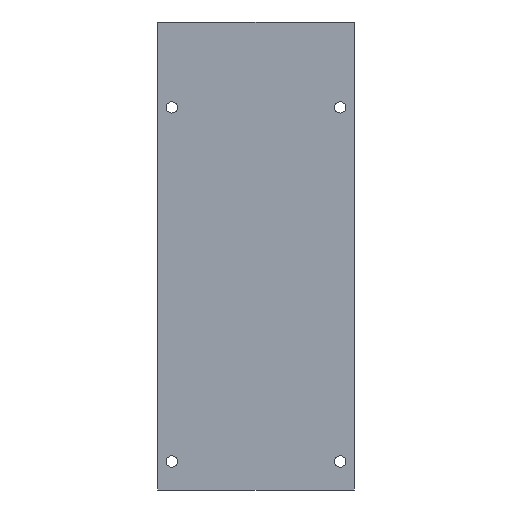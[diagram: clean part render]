
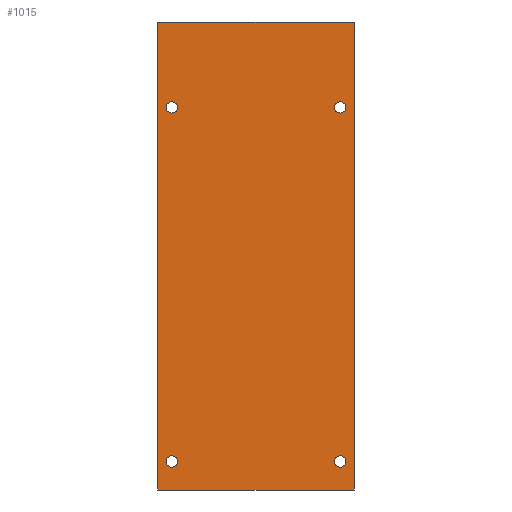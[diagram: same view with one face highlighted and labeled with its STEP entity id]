
A CAD part, front view. The second image highlights one B-rep face of the part: STEP entity #1015.
In plain terms, the highlighted planar face has unit normal (0, -1, 0).
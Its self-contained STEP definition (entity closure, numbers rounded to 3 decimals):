
#52 = FACE_BOUND ( 'NONE', #357, .T. ) ;
#78 = FACE_BOUND ( 'NONE', #391, .T. ) ;
#88 = FACE_BOUND ( 'NONE', #351, .T. ) ;
#92 = FACE_OUTER_BOUND ( 'NONE', #376, .T. ) ;
#102 = FACE_BOUND ( 'NONE', #367, .T. ) ;
#224 = VECTOR ( 'NONE', #1603, 1000. ) ;
#226 = VECTOR ( 'NONE', #1605, 1000. ) ;
#227 = LINE ( 'NONE', #1604, #224 ) ;
#228 = VECTOR ( 'NONE', #1615, 1000. ) ;
#230 = LINE ( 'NONE', #1616, #228 ) ;
#231 = CIRCLE ( 'NONE', #895, 4.5 ) ;
#232 = CIRCLE ( 'NONE', #896, 4.5 ) ;
#233 = CIRCLE ( 'NONE', #897, 4.5 ) ;
#235 = CIRCLE ( 'NONE', #898, 4.5 ) ;
#238 = VECTOR ( 'NONE', #1626, 1000. ) ;
#239 = LINE ( 'NONE', #1610, #226 ) ;
#241 = LINE ( 'NONE', #1627, #238 ) ;
#265 = CIRCLE ( 'NONE', #901, 4.5 ) ;
#286 = CIRCLE ( 'NONE', #907, 4.5 ) ;
#295 = CIRCLE ( 'NONE', #910, 4.5 ) ;
#300 = CIRCLE ( 'NONE', #911, 4.5 ) ;
#351 = EDGE_LOOP ( 'NONE', ( #447, #448 ) ) ;
#357 = EDGE_LOOP ( 'NONE', ( #449, #450 ) ) ;
#367 = EDGE_LOOP ( 'NONE', ( #451, #452 ) ) ;
#376 = EDGE_LOOP ( 'NONE', ( #453, #454, #455, #456 ) ) ;
#391 = EDGE_LOOP ( 'NONE', ( #445, #446 ) ) ;
#445 = ORIENTED_EDGE ( 'NONE', *, *, #941, .T. ) ;
#446 = ORIENTED_EDGE ( 'NONE', *, *, #790, .T. ) ;
#447 = ORIENTED_EDGE ( 'NONE', *, *, #942, .T. ) ;
#448 = ORIENTED_EDGE ( 'NONE', *, *, #796, .T. ) ;
#449 = ORIENTED_EDGE ( 'NONE', *, *, #943, .T. ) ;
#450 = ORIENTED_EDGE ( 'NONE', *, *, #789, .T. ) ;
#451 = ORIENTED_EDGE ( 'NONE', *, *, #944, .T. ) ;
#452 = ORIENTED_EDGE ( 'NONE', *, *, #845, .T. ) ;
#453 = ORIENTED_EDGE ( 'NONE', *, *, #945, .F. ) ;
#454 = ORIENTED_EDGE ( 'NONE', *, *, #946, .T. ) ;
#455 = ORIENTED_EDGE ( 'NONE', *, *, #938, .T. ) ;
#456 = ORIENTED_EDGE ( 'NONE', *, *, #947, .T. ) ;
#664 = VERTEX_POINT ( 'NONE', #1062 ) ;
#665 = VERTEX_POINT ( 'NONE', #1066 ) ;
#668 = VERTEX_POINT ( 'NONE', #1090 ) ;
#693 = VERTEX_POINT ( 'NONE', #1665 ) ;
#699 = VERTEX_POINT ( 'NONE', #1668 ) ;
#704 = VERTEX_POINT ( 'NONE', #1088 ) ;
#713 = VERTEX_POINT ( 'NONE', #1434 ) ;
#720 = VERTEX_POINT ( 'NONE', #1417 ) ;
#732 = VERTEX_POINT ( 'NONE', #1375 ) ;
#741 = VERTEX_POINT ( 'NONE', #1352 ) ;
#750 = VERTEX_POINT ( 'NONE', #1324 ) ;
#755 = VERTEX_POINT ( 'NONE', #1311 ) ;
#789 = EDGE_CURVE ( 'NONE', #704, #750, #300, .T. ) ;
#790 = EDGE_CURVE ( 'NONE', #720, #713, #295, .T. ) ;
#796 = EDGE_CURVE ( 'NONE', #732, #699, #286, .T. ) ;
#845 = EDGE_CURVE ( 'NONE', #755, #693, #265, .T. ) ;
#879 = AXIS2_PLACEMENT_3D ( 'NONE', #1438, #1437, #1436 ) ;
#895 = AXIS2_PLACEMENT_3D ( 'NONE', #1609, #1608, #1607 ) ;
#896 = AXIS2_PLACEMENT_3D ( 'NONE', #1614, #1613, #1612 ) ;
#897 = AXIS2_PLACEMENT_3D ( 'NONE', #1619, #1618, #1617 ) ;
#898 = AXIS2_PLACEMENT_3D ( 'NONE', #1622, #1621, #1620 ) ;
#901 = AXIS2_PLACEMENT_3D ( 'NONE', #1653, #1652, #1651 ) ;
#907 = AXIS2_PLACEMENT_3D ( 'NONE', #1070, #1069, #1067 ) ;
#910 = AXIS2_PLACEMENT_3D ( 'NONE', #1094, #1093, #1092 ) ;
#911 = AXIS2_PLACEMENT_3D ( 'NONE', #1114, #1112, #1109 ) ;
#938 = EDGE_CURVE ( 'NONE', #741, #664, #241, .T. ) ;
#941 = EDGE_CURVE ( 'NONE', #713, #720, #235, .T. ) ;
#942 = EDGE_CURVE ( 'NONE', #699, #732, #233, .T. ) ;
#943 = EDGE_CURVE ( 'NONE', #750, #704, #232, .T. ) ;
#944 = EDGE_CURVE ( 'NONE', #693, #755, #231, .T. ) ;
#945 = EDGE_CURVE ( 'NONE', #665, #668, #230, .T. ) ;
#946 = EDGE_CURVE ( 'NONE', #665, #741, #239, .T. ) ;
#947 = EDGE_CURVE ( 'NONE', #664, #668, #227, .T. ) ;
#1015 = ADVANCED_FACE ( 'NONE', ( #78, #88, #52, #102, #92 ), #1447, .F. ) ;
#1062 = CARTESIAN_POINT ( 'NONE',  ( 0., 0., 0. ) ) ;
#1066 = CARTESIAN_POINT ( 'NONE',  ( 155., 0., 370. ) ) ;
#1067 = DIRECTION ( 'NONE',  ( 0., 0., 1. ) ) ;
#1069 = DIRECTION ( 'NONE',  ( 0., 1., 0. ) ) ;
#1070 = CARTESIAN_POINT ( 'NONE',  ( 144., 0., 302.5 ) ) ;
#1088 = CARTESIAN_POINT ( 'NONE',  ( 144., 0., 18. ) ) ;
#1090 = CARTESIAN_POINT ( 'NONE',  ( 155., 0., 0. ) ) ;
#1092 = DIRECTION ( 'NONE',  ( 0., 0., 1. ) ) ;
#1093 = DIRECTION ( 'NONE',  ( 0., 1., 0. ) ) ;
#1094 = CARTESIAN_POINT ( 'NONE',  ( 11., 0., 302.5 ) ) ;
#1109 = DIRECTION ( 'NONE',  ( 0., 0., 1. ) ) ;
#1112 = DIRECTION ( 'NONE',  ( 0., 1., 0. ) ) ;
#1114 = CARTESIAN_POINT ( 'NONE',  ( 144., 0., 22.5 ) ) ;
#1311 = CARTESIAN_POINT ( 'NONE',  ( 11., 0., 18. ) ) ;
#1324 = CARTESIAN_POINT ( 'NONE',  ( 144., 0., 27. ) ) ;
#1352 = CARTESIAN_POINT ( 'NONE',  ( 0., 0., 370. ) ) ;
#1375 = CARTESIAN_POINT ( 'NONE',  ( 144., 0., 298. ) ) ;
#1417 = CARTESIAN_POINT ( 'NONE',  ( 11., 0., 298. ) ) ;
#1434 = CARTESIAN_POINT ( 'NONE',  ( 11., 0., 307. ) ) ;
#1436 = DIRECTION ( 'NONE',  ( 0., 0., 1. ) ) ;
#1437 = DIRECTION ( 'NONE',  ( 0., 1., 0. ) ) ;
#1438 = CARTESIAN_POINT ( 'NONE',  ( 0., 0., 605. ) ) ;
#1447 = PLANE ( 'NONE',  #879 ) ;
#1603 = DIRECTION ( 'NONE',  ( 1., 0., 0. ) ) ;
#1604 = CARTESIAN_POINT ( 'NONE',  ( 0., 0., 0. ) ) ;
#1605 = DIRECTION ( 'NONE',  ( -1., 0., 0. ) ) ;
#1607 = DIRECTION ( 'NONE',  ( 0., 0., 1. ) ) ;
#1608 = DIRECTION ( 'NONE',  ( 0., 1., 0. ) ) ;
#1609 = CARTESIAN_POINT ( 'NONE',  ( 11., 0., 22.5 ) ) ;
#1610 = CARTESIAN_POINT ( 'NONE',  ( 0., 0., 370. ) ) ;
#1612 = DIRECTION ( 'NONE',  ( 0., 0., 1. ) ) ;
#1613 = DIRECTION ( 'NONE',  ( 0., 1., 0. ) ) ;
#1614 = CARTESIAN_POINT ( 'NONE',  ( 144., 0., 22.5 ) ) ;
#1615 = DIRECTION ( 'NONE',  ( 0., 0., -1. ) ) ;
#1616 = CARTESIAN_POINT ( 'NONE',  ( 155., 0., 605. ) ) ;
#1617 = DIRECTION ( 'NONE',  ( 0., 0., 1. ) ) ;
#1618 = DIRECTION ( 'NONE',  ( 0., 1., 0. ) ) ;
#1619 = CARTESIAN_POINT ( 'NONE',  ( 144., 0., 302.5 ) ) ;
#1620 = DIRECTION ( 'NONE',  ( 0., 0., 1. ) ) ;
#1621 = DIRECTION ( 'NONE',  ( 0., 1., 0. ) ) ;
#1622 = CARTESIAN_POINT ( 'NONE',  ( 11., 0., 302.5 ) ) ;
#1626 = DIRECTION ( 'NONE',  ( 0., 0., -1. ) ) ;
#1627 = CARTESIAN_POINT ( 'NONE',  ( 0., 0., 605. ) ) ;
#1651 = DIRECTION ( 'NONE',  ( 0., 0., 1. ) ) ;
#1652 = DIRECTION ( 'NONE',  ( 0., 1., 0. ) ) ;
#1653 = CARTESIAN_POINT ( 'NONE',  ( 11., 0., 22.5 ) ) ;
#1665 = CARTESIAN_POINT ( 'NONE',  ( 11., 0., 27. ) ) ;
#1668 = CARTESIAN_POINT ( 'NONE',  ( 144., 0., 307. ) ) ;
